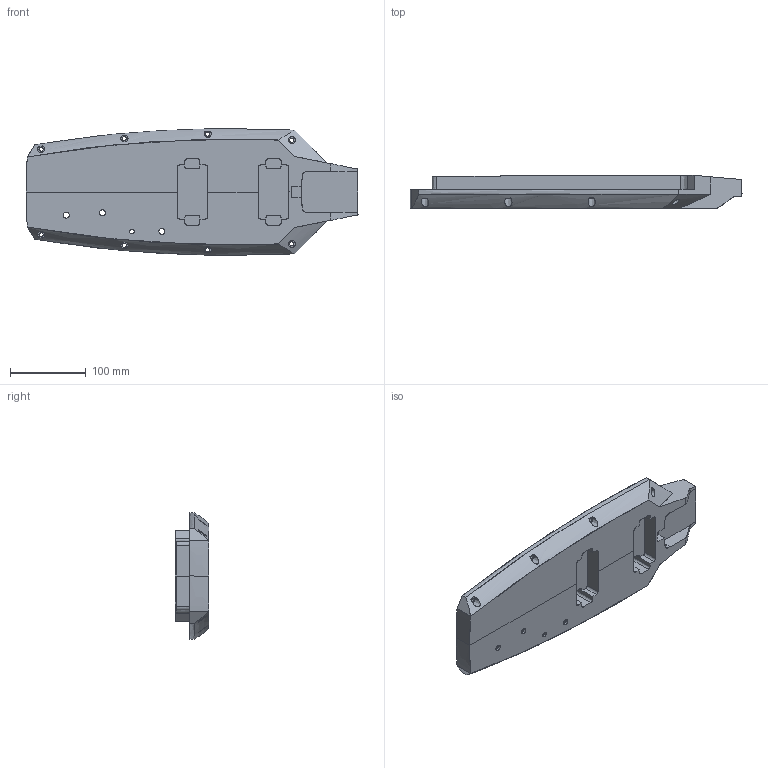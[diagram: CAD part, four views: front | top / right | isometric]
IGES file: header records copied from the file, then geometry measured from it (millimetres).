
Start section:  Autodesk DirectConnect version 5.0.523.0 ---- IGES version 5.3
Global section: file name: /Users/alehnhar/Desktop/Guitar Misc/Model/GuitarBody.igs; native system: Autodesk DirectConnect 5.0.523.0; preprocessor: 5.0.523.0; author: alehnhar; organization: Unknown; date: 20120604.043700; units: inch
Bounding box: 438.83 x 44.45 x 167.49 mm (x, y, z)
Surface area: 197236.4 mm2 (no closed solid volume)
Topology: 0 solids, 0 shells, 217 faces, 3118 edges, 3118 vertices
Faces by surface type: bspline 217
